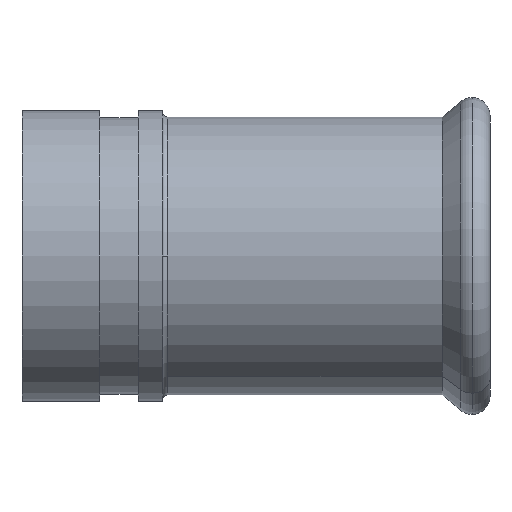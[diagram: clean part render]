
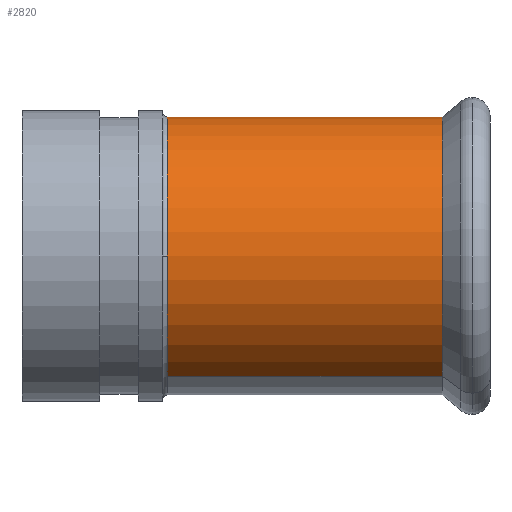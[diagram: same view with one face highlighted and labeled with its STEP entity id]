
A CAD part, front view. The second image highlights one B-rep face of the part: STEP entity #2820.
In plain terms, the highlighted cylindrical face has radius 28.65 mm (diameter 57.3 mm), a partial arc.
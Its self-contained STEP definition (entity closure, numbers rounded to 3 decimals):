
#2370=CARTESIAN_POINT('',(561.42,-559.822,
0.));
#2380=DIRECTION('',(-1.,0.,0.));
#2390=DIRECTION('',(0.,-0.5,
-0.866));
#2400=AXIS2_PLACEMENT_3D('',#2370,#2380,#2390);
#2410=CYLINDRICAL_SURFACE('',#2400,28.65);
#2420=CARTESIAN_POINT('',(561.42,-545.497,
24.812));
#2430=DIRECTION('',(-1.,0.,0.));
#2440=VECTOR('',#2430,1.);
#2450=LINE('',#2420,#2440);
#2460=CARTESIAN_POINT('',(574.256,-545.497,
24.812));
#2470=VERTEX_POINT('',#2460);
#2480=CARTESIAN_POINT('',(517.57,-545.497,
24.812));
#2490=VERTEX_POINT('',#2480);
#2500=EDGE_CURVE('',#2470,#2490,#2450,.T.);
#2510=ORIENTED_EDGE('',*,*,#2500,.T.);
#2520=CARTESIAN_POINT('',(574.256,-559.822,
0.));
#2530=DIRECTION('',(1.,0.,0.));
#2540=DIRECTION('',(0.,0.5,
0.866));
#2550=AXIS2_PLACEMENT_3D('',#2520,#2530,#2540);
#2560=CIRCLE('',#2550,28.65);
#2570=CARTESIAN_POINT('',(574.256,-574.147,
-24.812));
#2580=VERTEX_POINT('',#2570);
#2590=EDGE_CURVE('',#2470,#2580,#2560,.T.);
#2600=ORIENTED_EDGE('',*,*,#2590,.F.);
#2610=CARTESIAN_POINT('',(561.42,-574.147,
-24.812));
#2620=DIRECTION('',(-1.,0.,0.));
#2630=VECTOR('',#2620,1.);
#2640=LINE('',#2610,#2630);
#2650=CARTESIAN_POINT('',(517.57,-574.147,
-24.812));
#2660=VERTEX_POINT('',#2650);
#2670=EDGE_CURVE('',#2580,#2660,#2640,.T.);
#2680=ORIENTED_EDGE('',*,*,#2670,.F.);
#2690=CARTESIAN_POINT('',(517.57,-559.822,
0.));
#2700=DIRECTION('',(1.,0.,0.));
#2710=DIRECTION('',(0.,-1.,0.));
#2720=AXIS2_PLACEMENT_3D('',#2690,#2700,#2710);
#2730=CIRCLE('',#2720,28.65);
#2740=CARTESIAN_POINT('',(517.57,-588.472,
0.));
#2750=VERTEX_POINT('',#2740);
#2760=EDGE_CURVE('',#2750,#2660,#2730,.T.);
#2770=ORIENTED_EDGE('',*,*,#2760,.T.);
#2780=EDGE_CURVE('',#2490,#2750,#2730,.T.);
#2790=ORIENTED_EDGE('',*,*,#2780,.T.);
#2800=EDGE_LOOP('',(#2790,#2770,#2680,#2600,#2510));
#2810=FACE_OUTER_BOUND('',#2800,.T.);
#2820=ADVANCED_FACE('',(#2810),#2410,.T.);
